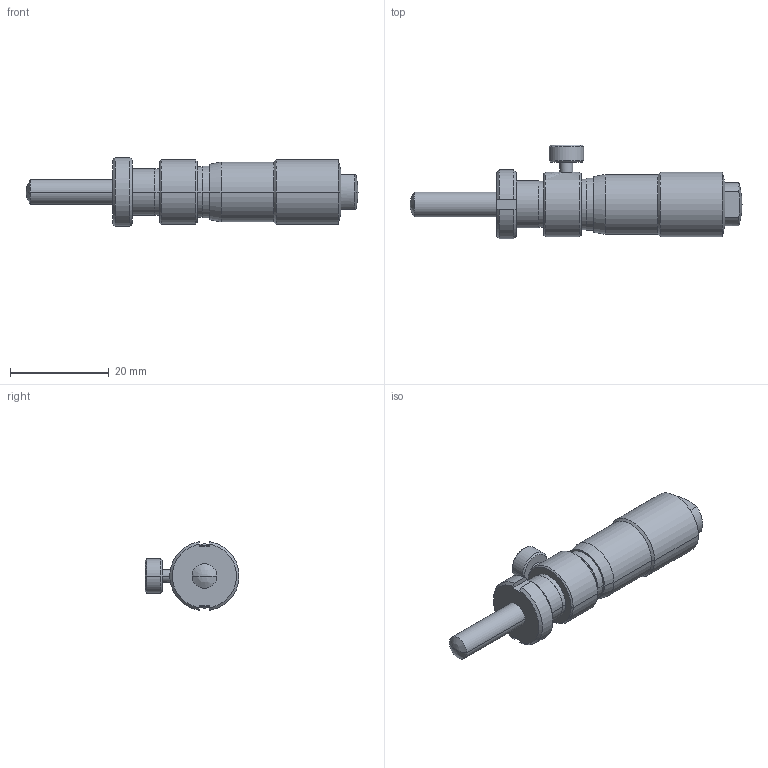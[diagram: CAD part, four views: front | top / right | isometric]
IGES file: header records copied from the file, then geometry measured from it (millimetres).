
Start section: Elysium IGES Interface
Global section: file name: 134HL:\商品設計部\部内\R_drv\99_受け渡しBOX\大竹\⇒賀藤さん\マイクロメータヘッド　CADデータ提供依頼\★3D_IGS完了\148-153-10_MHS4-13LCA.igs; native system: Creo Elements/Direct Modeling 18.1H  24-Oct-2015; preprocessor: Creo Element/Direct IGES_3D V2.2; author: Unknown; organization: Unknown; date: 20220926.142232; units: millimetre
Bounding box: 67.1 x 18.98 x 13.86 mm (x, y, z)
Volume: 6098.8 mm3; surface area: 2729 mm2
Topology: 1 solids, 1 shells, 64 faces, 145 edges, 88 vertices
Faces by surface type: bspline 64
